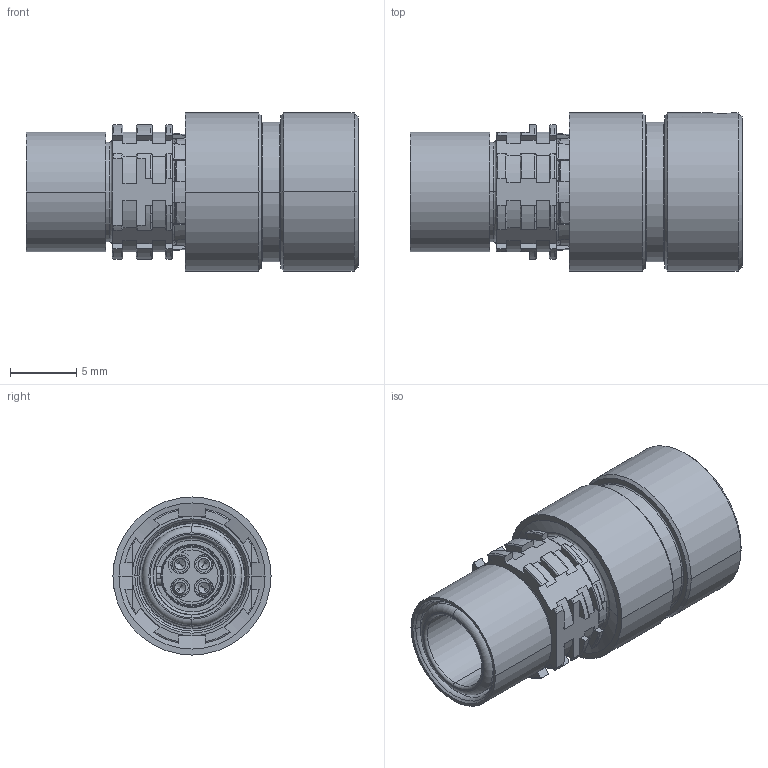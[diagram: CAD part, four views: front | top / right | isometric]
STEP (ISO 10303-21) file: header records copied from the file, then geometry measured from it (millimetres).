
FILE_DESCRIPTION((''),'2;1');
FILE_NAME('00051369--_ASM','2020-10-13T08:17:34',('EUnterhaslberger'),(''),'CREO PARAMETRIC BY PTC INC, 2018300','CREO PARAMETRIC BY PTC INC, 2018300','');
FILE_SCHEMA(('AP242_MANAGED_MODEL_BASED_3D_ENGINEERING_MIM_LF { 1 0 10303 442 1 1 4 }'));
Length unit declared in the file: millimetre
Products named in the file (5): TEMP_SW_STEP_MONOBLOCK_1_1; TEMP_SW_STEP_MONOBLOCK_1_2; TEMP_SW_STEP_MONOBLOCK_1_3; TEMP_SW_STEP_MONOBLOCK_1_ASM; 00051369--_ASM
Assembly tree (4 placements, depth 3):
  00051369--_ASM
    TEMP_SW_STEP_MONOBLOCK_1_ASM
      TEMP_SW_STEP_MONOBLOCK_1_1
      TEMP_SW_STEP_MONOBLOCK_1_2
      TEMP_SW_STEP_MONOBLOCK_1_3
Bounding box: 25 x 11.9 x 11.9 mm (x, y, z)
Volume: 1574.2 mm3; surface area: 2702.3 mm2
Topology: 3 solids, 7 shells, 611 faces, 1756 edges, 1167 vertices
Faces by surface type: plane 215, cylinder 186, torus 119, cone 91
Entity records: 25773 total; most frequent: CARTESIAN_POINT 4968, ORIENTED_EDGE 3496, DIRECTION 3479, EDGE_CURVE 1748, AXIS2_PLACEMENT_3D 1375, VERTEX_POINT 1167, CIRCLE 752, VECTOR 729
